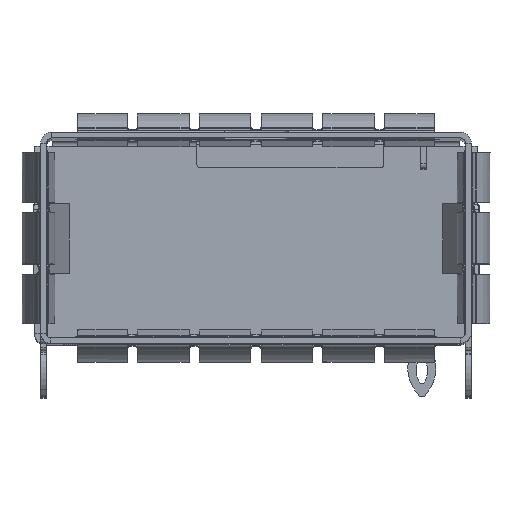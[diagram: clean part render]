
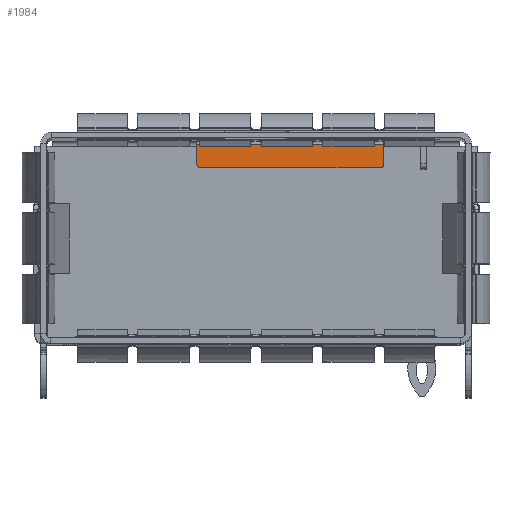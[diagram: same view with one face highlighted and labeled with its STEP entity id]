
A CAD part, top view. The second image highlights one B-rep face of the part: STEP entity #1984.
In plain terms, the highlighted planar face has unit normal (0, 0, 1).
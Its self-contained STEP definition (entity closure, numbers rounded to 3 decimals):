
#847=PLANE('',#29830);
#1984=ADVANCED_FACE('',(#4254),#847,.F.);
#4254=FACE_OUTER_BOUND('',#5824,.T.);
#5824=EDGE_LOOP('',(#15209,#15210,#15211,#15212,#15213,#15214));
#7951=LINE('',#46592,#10449);
#7957=LINE('',#46608,#10455);
#7958=LINE('',#46611,#10456);
#7959=LINE('',#46612,#10457);
#10449=VECTOR('',#35328,1.);
#10455=VECTOR('',#35344,1.);
#10456=VECTOR('',#35345,1.);
#10457=VECTOR('',#35346,1.);
#15209=ORIENTED_EDGE('',*,*,#24815,.F.);
#15210=ORIENTED_EDGE('',*,*,#24816,.F.);
#15211=ORIENTED_EDGE('',*,*,#24810,.F.);
#15212=ORIENTED_EDGE('',*,*,#24807,.F.);
#15213=ORIENTED_EDGE('',*,*,#24804,.F.);
#15214=ORIENTED_EDGE('',*,*,#24817,.F.);
#21502=VERTEX_POINT('',#46585);
#21503=VERTEX_POINT('',#46587);
#21505=VERTEX_POINT('',#46593);
#21507=VERTEX_POINT('',#46599);
#21510=VERTEX_POINT('',#46609);
#21511=VERTEX_POINT('',#46610);
#24804=EDGE_CURVE('',#21502,#21503,#27679,.T.);
#24807=EDGE_CURVE('',#21503,#21505,#7951,.T.);
#24810=EDGE_CURVE('',#21505,#21507,#27681,.T.);
#24815=EDGE_CURVE('',#21510,#21511,#7957,.T.);
#24816=EDGE_CURVE('',#21507,#21510,#7958,.T.);
#24817=EDGE_CURVE('',#21511,#21502,#7959,.T.);
#27679=CIRCLE('',#29823,0.15);
#27681=CIRCLE('',#29827,0.15);
#29823=AXIS2_PLACEMENT_3D('',#46586,#35322,#35323);
#29827=AXIS2_PLACEMENT_3D('',#46598,#35334,#35335);
#29830=AXIS2_PLACEMENT_3D('',#46613,#35347,#35348);
#35322=DIRECTION('',(0.,0.,-1.));
#35323=DIRECTION('',(0.,1.,0.));
#35328=DIRECTION('',(-1.,0.,0.));
#35334=DIRECTION('',(0.,0.,-1.));
#35335=DIRECTION('',(0.,1.,0.));
#35344=DIRECTION('',(1.,0.,0.));
#35345=DIRECTION('',(0.,1.,0.));
#35346=DIRECTION('',(0.,-1.,0.));
#35347=DIRECTION('',(0.,0.,-1.));
#35348=DIRECTION('',(0.,-1.,0.));
#46585=CARTESIAN_POINT('',(5.675,-1.35,0.));
#46586=CARTESIAN_POINT('',(5.525,-1.35,0.));
#46587=CARTESIAN_POINT('',(5.525,-1.5,0.));
#46592=CARTESIAN_POINT('',(-2.475,-1.5,0.));
#46593=CARTESIAN_POINT('',(-2.475,-1.5,0.));
#46598=CARTESIAN_POINT('',(-2.475,-1.35,0.));
#46599=CARTESIAN_POINT('',(-2.625,-1.35,0.));
#46608=CARTESIAN_POINT('',(5.675,-0.45,0.));
#46609=CARTESIAN_POINT('',(-2.625,-0.45,0.));
#46610=CARTESIAN_POINT('',(5.675,-0.45,0.));
#46611=CARTESIAN_POINT('',(-2.625,-0.25,0.));
#46612=CARTESIAN_POINT('',(5.675,-1.35,0.));
#46613=CARTESIAN_POINT('',(-2.475,-1.35,0.));
